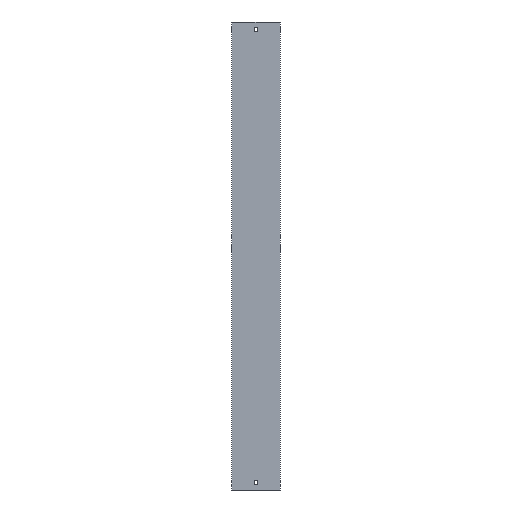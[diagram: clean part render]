
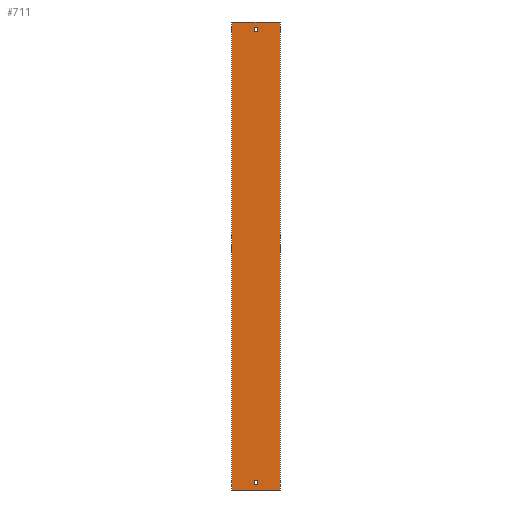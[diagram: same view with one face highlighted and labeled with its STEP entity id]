
A CAD part, front view. The second image highlights one B-rep face of the part: STEP entity #711.
In plain terms, the highlighted planar face has unit normal (0, -1, 0).
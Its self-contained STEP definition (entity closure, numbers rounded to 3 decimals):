
#2 = VECTOR ( 'NONE', #379, 1000. ) ;
#10 = CARTESIAN_POINT ( 'NONE',  ( 3.25, 0., -488. ) ) ;
#26 = DIRECTION ( 'NONE',  ( -1., 0., 0. ) ) ;
#35 = ORIENTED_EDGE ( 'NONE', *, *, #200, .T. ) ;
#38 = CARTESIAN_POINT ( 'NONE',  ( -3.25, 0., -488. ) ) ;
#40 = CARTESIAN_POINT ( 'NONE',  ( 52., 0., 500. ) ) ;
#44 = VERTEX_POINT ( 'NONE', #632 ) ;
#45 = LINE ( 'NONE', #381, #155 ) ;
#49 = VERTEX_POINT ( 'NONE', #1070 ) ;
#52 = LINE ( 'NONE', #841, #1011 ) ;
#55 = EDGE_CURVE ( 'NONE', #961, #860, #710, .T. ) ;
#62 = DIRECTION ( 'NONE',  ( 1., 0., 0. ) ) ;
#90 = VERTEX_POINT ( 'NONE', #904 ) ;
#101 = CARTESIAN_POINT ( 'NONE',  ( 3.25, 0., -479. ) ) ;
#110 = VECTOR ( 'NONE', #636, 1000. ) ;
#113 = VECTOR ( 'NONE', #62, 1000. ) ;
#114 = EDGE_LOOP ( 'NONE', ( #573, #910, #493, #740 ) ) ;
#117 = EDGE_CURVE ( 'NONE', #49, #90, #1063, .T. ) ;
#133 = CARTESIAN_POINT ( 'NONE',  ( -52., 0., 500. ) ) ;
#155 = VECTOR ( 'NONE', #572, 1000. ) ;
#159 = FACE_OUTER_BOUND ( 'NONE', #798, .T. ) ;
#166 = LINE ( 'NONE', #679, #1069 ) ;
#200 = EDGE_CURVE ( 'NONE', #828, #783, #1102, .T. ) ;
#206 = CARTESIAN_POINT ( 'NONE',  ( -3.25, 0., -488. ) ) ;
#216 = DIRECTION ( 'NONE',  ( 1., 0., 0. ) ) ;
#228 = VECTOR ( 'NONE', #420, 1000. ) ;
#232 = DIRECTION ( 'NONE',  ( 0., 0., 1. ) ) ;
#259 = ORIENTED_EDGE ( 'NONE', *, *, #630, .F. ) ;
#260 = CARTESIAN_POINT ( 'NONE',  ( -52., 0., -500. ) ) ;
#264 = VECTOR ( 'NONE', #232, 1000. ) ;
#267 = CARTESIAN_POINT ( 'NONE',  ( 52., 0., 500. ) ) ;
#288 = DIRECTION ( 'NONE',  ( 1., 0., 0. ) ) ;
#319 = CARTESIAN_POINT ( 'NONE',  ( -52., 0., 500. ) ) ;
#349 = VECTOR ( 'NONE', #26, 1000. ) ;
#358 = VERTEX_POINT ( 'NONE', #934 ) ;
#379 = DIRECTION ( 'NONE',  ( 1., 0., 0. ) ) ;
#381 = CARTESIAN_POINT ( 'NONE',  ( -3.25, 0., -488. ) ) ;
#420 = DIRECTION ( 'NONE',  ( 0., 0., -1. ) ) ;
#422 = AXIS2_PLACEMENT_3D ( 'NONE', #319, #691, #765 ) ;
#427 = LINE ( 'NONE', #510, #228 ) ;
#443 = CARTESIAN_POINT ( 'NONE',  ( 3.25, 0., 479. ) ) ;
#447 = ORIENTED_EDGE ( 'NONE', *, *, #492, .F. ) ;
#492 = EDGE_CURVE ( 'NONE', #828, #954, #535, .T. ) ;
#493 = ORIENTED_EDGE ( 'NONE', *, *, #117, .F. ) ;
#497 = VERTEX_POINT ( 'NONE', #101 ) ;
#510 = CARTESIAN_POINT ( 'NONE',  ( -3.25, 0., 488. ) ) ;
#529 = CARTESIAN_POINT ( 'NONE',  ( -3.25, 0., 488. ) ) ;
#535 = LINE ( 'NONE', #714, #659 ) ;
#546 = EDGE_CURVE ( 'NONE', #783, #44, #52, .T. ) ;
#572 = DIRECTION ( 'NONE',  ( -1., 0., 0. ) ) ;
#573 = ORIENTED_EDGE ( 'NONE', *, *, #651, .F. ) ;
#574 = LINE ( 'NONE', #747, #264 ) ;
#584 = FACE_BOUND ( 'NONE', #114, .T. ) ;
#595 = EDGE_CURVE ( 'NONE', #843, #49, #574, .T. ) ;
#630 = EDGE_CURVE ( 'NONE', #954, #44, #823, .T. ) ;
#632 = CARTESIAN_POINT ( 'NONE',  ( 52., 0., -500. ) ) ;
#636 = DIRECTION ( 'NONE',  ( 0., 0., 1. ) ) ;
#643 = DIRECTION ( 'NONE',  ( 0., 0., -1. ) ) ;
#651 = EDGE_CURVE ( 'NONE', #358, #843, #1007, .T. ) ;
#657 = VECTOR ( 'NONE', #643, 1000. ) ;
#659 = VECTOR ( 'NONE', #288, 1000. ) ;
#666 = CARTESIAN_POINT ( 'NONE',  ( -3.25, 0., -479. ) ) ;
#679 = CARTESIAN_POINT ( 'NONE',  ( 3.25, 0., -488. ) ) ;
#691 = DIRECTION ( 'NONE',  ( 0., 1., 0. ) ) ;
#710 = LINE ( 'NONE', #206, #110 ) ;
#711 = ADVANCED_FACE ( 'NONE', ( #159, #584, #866 ), #1107, .F. ) ;
#714 = CARTESIAN_POINT ( 'NONE',  ( -52., 0., 500. ) ) ;
#740 = ORIENTED_EDGE ( 'NONE', *, *, #595, .F. ) ;
#741 = DIRECTION ( 'NONE',  ( 0., 0., -1. ) ) ;
#747 = CARTESIAN_POINT ( 'NONE',  ( 3.25, 0., 488. ) ) ;
#765 = DIRECTION ( 'NONE',  ( -1., 0., 0. ) ) ;
#767 = EDGE_CURVE ( 'NONE', #497, #875, #166, .T. ) ;
#771 = CARTESIAN_POINT ( 'NONE',  ( -52., 0., 500. ) ) ;
#781 = ORIENTED_EDGE ( 'NONE', *, *, #767, .T. ) ;
#783 = VERTEX_POINT ( 'NONE', #260 ) ;
#798 = EDGE_LOOP ( 'NONE', ( #888, #259, #447, #35 ) ) ;
#799 = CARTESIAN_POINT ( 'NONE',  ( -3.25, 0., -479. ) ) ;
#817 = EDGE_CURVE ( 'NONE', #90, #358, #427, .T. ) ;
#823 = LINE ( 'NONE', #40, #992 ) ;
#828 = VERTEX_POINT ( 'NONE', #771 ) ;
#841 = CARTESIAN_POINT ( 'NONE',  ( -52., 0., -500. ) ) ;
#843 = VERTEX_POINT ( 'NONE', #443 ) ;
#860 = VERTEX_POINT ( 'NONE', #799 ) ;
#866 = FACE_BOUND ( 'NONE', #1114, .T. ) ;
#875 = VERTEX_POINT ( 'NONE', #10 ) ;
#888 = ORIENTED_EDGE ( 'NONE', *, *, #546, .T. ) ;
#904 = CARTESIAN_POINT ( 'NONE',  ( -3.25, 0., 488. ) ) ;
#907 = CARTESIAN_POINT ( 'NONE',  ( -3.25, 0., 479. ) ) ;
#910 = ORIENTED_EDGE ( 'NONE', *, *, #817, .F. ) ;
#927 = ORIENTED_EDGE ( 'NONE', *, *, #1127, .T. ) ;
#933 = DIRECTION ( 'NONE',  ( 0., 0., -1. ) ) ;
#934 = CARTESIAN_POINT ( 'NONE',  ( -3.25, 0., 479. ) ) ;
#954 = VERTEX_POINT ( 'NONE', #267 ) ;
#961 = VERTEX_POINT ( 'NONE', #38 ) ;
#972 = EDGE_CURVE ( 'NONE', #875, #961, #45, .T. ) ;
#992 = VECTOR ( 'NONE', #741, 1000. ) ;
#1007 = LINE ( 'NONE', #907, #2 ) ;
#1011 = VECTOR ( 'NONE', #216, 1000. ) ;
#1038 = ORIENTED_EDGE ( 'NONE', *, *, #55, .T. ) ;
#1042 = LINE ( 'NONE', #666, #113 ) ;
#1063 = LINE ( 'NONE', #529, #349 ) ;
#1069 = VECTOR ( 'NONE', #933, 1000. ) ;
#1070 = CARTESIAN_POINT ( 'NONE',  ( 3.25, 0., 488. ) ) ;
#1071 = ORIENTED_EDGE ( 'NONE', *, *, #972, .T. ) ;
#1102 = LINE ( 'NONE', #133, #657 ) ;
#1107 = PLANE ( 'NONE',  #422 ) ;
#1114 = EDGE_LOOP ( 'NONE', ( #1038, #927, #781, #1071 ) ) ;
#1127 = EDGE_CURVE ( 'NONE', #860, #497, #1042, .T. ) ;
